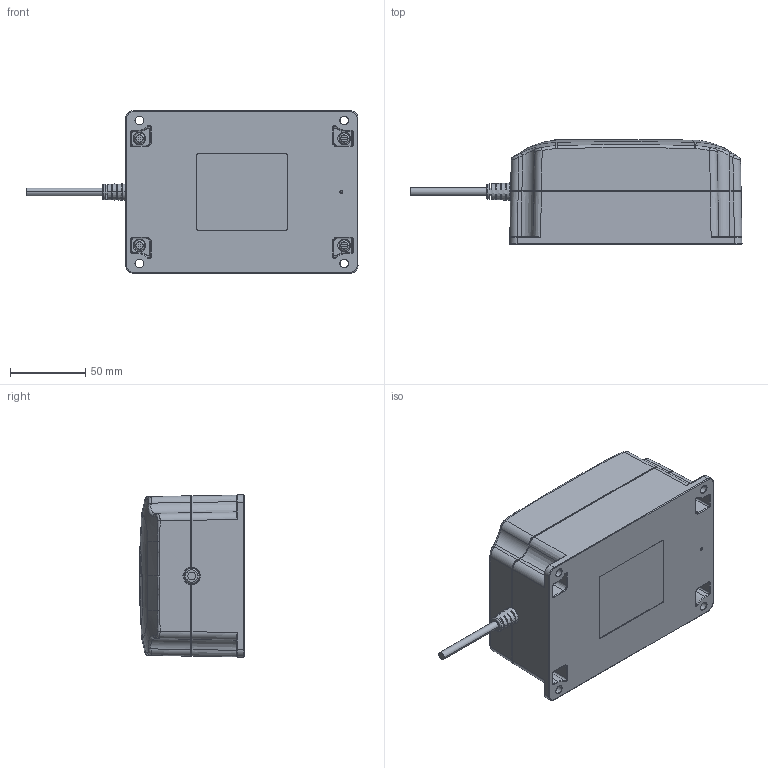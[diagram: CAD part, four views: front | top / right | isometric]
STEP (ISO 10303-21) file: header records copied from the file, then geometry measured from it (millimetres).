
FILE_DESCRIPTION((''),'2;1');
FILE_NAME('BTP3-0412','2021-04-12T',('USER'),(''),'PRO/ENGINEER BY PARAMETRIC TECHNOLOGY CORPORATION, 2016240','PRO/ENGINEER BY PARAMETRIC TECHNOLOGY CORPORATION, 2016240','');
FILE_SCHEMA(('CONFIG_CONTROL_DESIGN'));
Products named in the file (1): BTP3-0412
Bounding box: 220.4 x 69.59 x 107.7 mm (x, y, z)
Volume: 235939.2 mm3; surface area: 145034.4 mm2
Topology: 1 solids, 25 shells, 1163 faces, 2971 edges, 1880 vertices
Faces by surface type: plane 479, cylinder 278, bspline 184, torus 118, cone 96, extrusion 8
Entity records: 46089 total; most frequent: CARTESIAN_POINT 19644, ORIENTED_EDGE 5942, DIRECTION 4809, EDGE_CURVE 2971, VERTEX_POINT 1880, AXIS2_PLACEMENT_3D 1696, VECTOR 1417, LINE 1409
